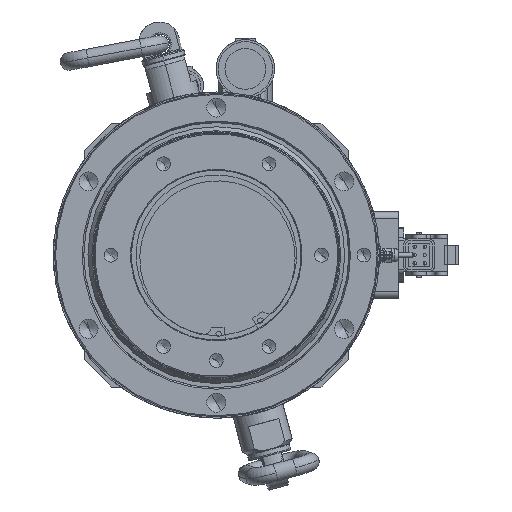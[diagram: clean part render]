
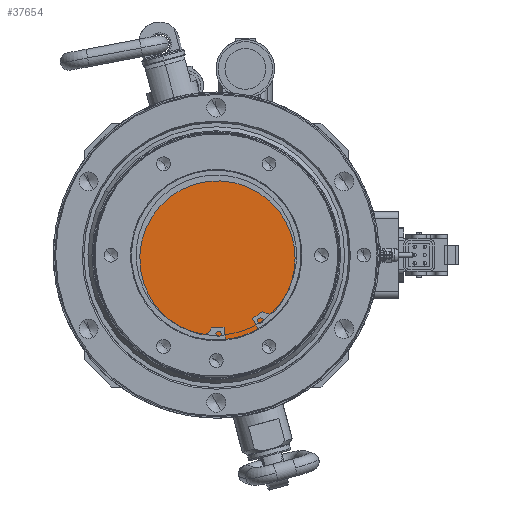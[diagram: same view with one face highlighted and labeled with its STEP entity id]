
A CAD part, front view. The second image highlights one B-rep face of the part: STEP entity #37654.
In plain terms, the highlighted planar face has unit normal (0, -1, 0).
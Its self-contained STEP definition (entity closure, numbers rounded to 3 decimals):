
#3072 = EDGE_LOOP ( 'NONE', ( #51330, #71947 ) ) ;
#4294 = VERTEX_POINT ( 'NONE', #70727 ) ;
#8148 = AXIS2_PLACEMENT_3D ( 'NONE', #35705, #71258, #47801 ) ;
#11031 = DIRECTION ( 'NONE',  ( 0., 1., 0. ) ) ;
#13625 = EDGE_CURVE ( 'NONE', #19268, #4294, #34643, .T. ) ;
#15562 = FACE_OUTER_BOUND ( 'NONE', #3072, .T. ) ;
#19268 = VERTEX_POINT ( 'NONE', #65300 ) ;
#22137 = DIRECTION ( 'NONE',  ( -0.205, 0., -0.979 ) ) ;
#22562 = CIRCLE ( 'NONE', #8148, 62.5 ) ;
#24366 = PLANE ( 'NONE',  #56428 ) ;
#34643 = CIRCLE ( 'NONE', #73297, 62.5 ) ;
#35705 = CARTESIAN_POINT ( 'NONE',  ( 0., -18.5, 0. ) ) ;
#37654 = ADVANCED_FACE ( 'NONE', ( #15562 ), #24366, .F. ) ;
#40232 = DIRECTION ( 'NONE',  ( 0., 1., 0. ) ) ;
#45544 = CARTESIAN_POINT ( 'NONE',  ( 0., -18.5, 0. ) ) ;
#47801 = DIRECTION ( 'NONE',  ( -0.205, 0., -0.979 ) ) ;
#51330 = ORIENTED_EDGE ( 'NONE', *, *, #13625, .F. ) ;
#56428 = AXIS2_PLACEMENT_3D ( 'NONE', #56755, #11031, #57132 ) ;
#56755 = CARTESIAN_POINT ( 'NONE',  ( 0., -18.5, 0. ) ) ;
#57132 = DIRECTION ( 'NONE',  ( -0.205, 0., -0.979 ) ) ;
#65300 = CARTESIAN_POINT ( 'NONE',  ( 12.803, -18.5, 61.175 ) ) ;
#70727 = CARTESIAN_POINT ( 'NONE',  ( -12.803, -18.5, -61.175 ) ) ;
#71258 = DIRECTION ( 'NONE',  ( 0., 1., 0. ) ) ;
#71947 = ORIENTED_EDGE ( 'NONE', *, *, #73617, .F. ) ;
#73297 = AXIS2_PLACEMENT_3D ( 'NONE', #45544, #40232, #22137 ) ;
#73617 = EDGE_CURVE ( 'NONE', #4294, #19268, #22562, .T. ) ;
